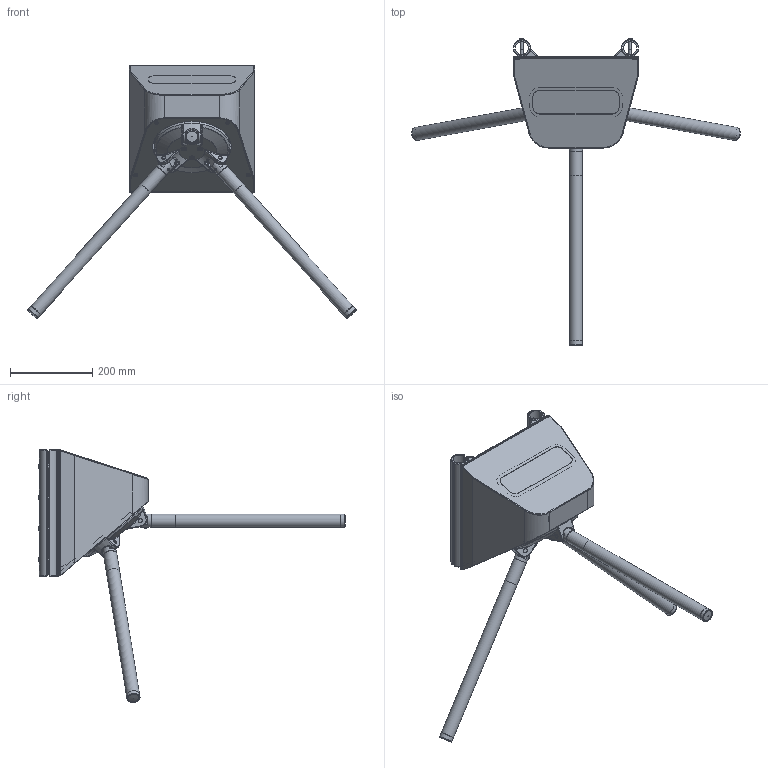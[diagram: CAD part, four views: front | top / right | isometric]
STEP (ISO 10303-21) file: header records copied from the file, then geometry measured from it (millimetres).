
FILE_DESCRIPTION(/* description */ ('Unknown'),/* implementation_level */ '2;1');
FILE_NAME(/* name */ 'TTR-10AТ',/* time_stamp */ '2021-11-12T15:12:33+03:00',/* author */ ('Unknown'),/* organization */ ('Unknown'),/* preprocessor_version */ 'ST-DEVELOPER v16.7',/* originating_system */ 'Solid Edge',/* authorisation */ 'Unknown');
FILE_SCHEMA (('CONFIG_CONTROL_DESIGN'));
Products named in the file (1): TTR-10Aﾒ
Bounding box: 798.42 x 745.31 x 614.63 mm (x, y, z)
Volume: 2158293.8 mm3; surface area: 1366669.1 mm2
Topology: 46 solids, 46 shells, 2188 faces, 5390 edges, 3332 vertices
Faces by surface type: plane 775, cylinder 564, bspline 444, cone 241, torus 117, sphere 47
Full cylindrical faces by diameter (mm): 3.2 x2, 3.242 x4, 3.3 x15, 4 x8, 4.019 x4, 4.134 x4, 4.773 x8, 4.917 x8, 5 x17, 5.5 x4, 6 x16, 6.466 x3, 6.6 x8, 7 x8, 8 x9, 8.4 x8, 9 x3, 10 x33, 10.5 x4, 12 x8, 13 x3, 14.5 x3, 18 x2, 20 x3, 24 x3, 27 x3, 28 x3, 28.5 x6, 32 x9, 185 x1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
Entity records: 106390 total; most frequent: CARTESIAN_POINT 48899, ORIENTED_EDGE 9666, DIRECTION 8299, EDGE_CURVE 4833, AXIS2_PLACEMENT_3D 3264, VERTEX_POINT 3203, FACE_BOUND 2832, EDGE_LOOP 2814
